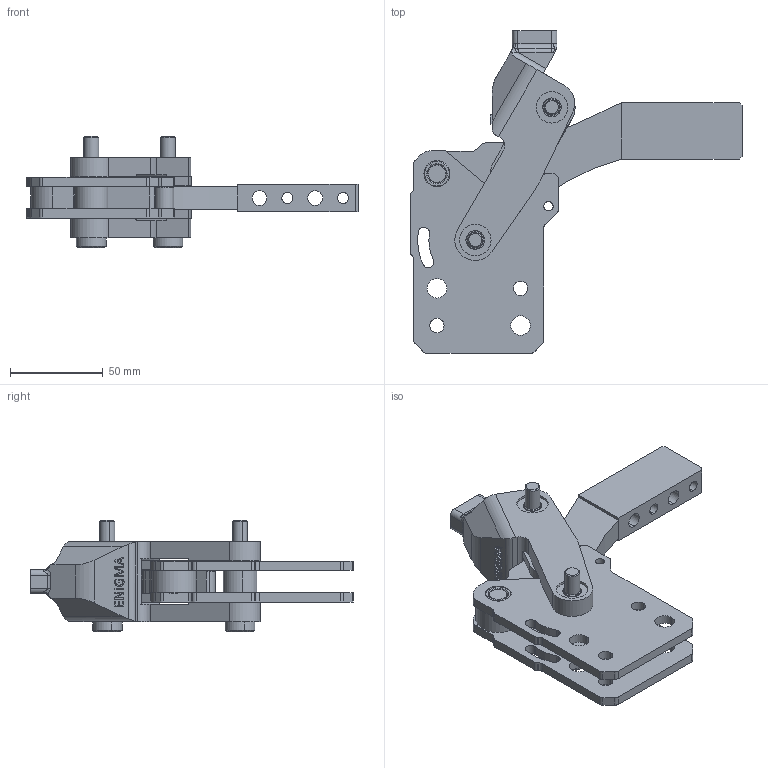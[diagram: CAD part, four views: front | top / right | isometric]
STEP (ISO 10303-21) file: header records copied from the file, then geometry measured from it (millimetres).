
FILE_DESCRIPTION (( 'STEP AP203' ), '1' );
FILE_NAME ('1545_D.STEP', '2022-12-06T13:27:18', ( '' ), ( '' ), 'SwSTEP 2.0', 'SolidWorks 2023', '' );
FILE_SCHEMA (( 'CONFIG_CONTROL_DESIGN' ));
Length unit declared in the file: millimetre
Products named in the file (11): 1505_MafsalGrubu_Kilitli_Varsayılan; AS_5_D_G_Varsayılan; 1545_BASKIKOLU_YARIŞKABİN_2; 1535_Burc_14x10x5_Varsayılan; 1535_Mafsal_5mm_Varsayılan; 1535_dovme mafsal_Varsayılan; 1535_cap5x12_on paralel burc_Varsayılan; G39x8x10x40_Varsayılan; 1545_D; 1535_Cap10x22 Tırtıllı Pim_Varsayılan; 1535_cap10x18_ara mesafe burcu_Varsayılan
Assembly tree (20 placements, depth 3):
  1545_D
    1505_MafsalGrubu_Kilitli_Varsayılan
      1535_dovme mafsal_Varsayılan
      1535_Mafsal_5mm_Varsayılan  x2
      1535_Burc_14x10x5_Varsayılan  x4
      G39x8x10x40_Varsayılan  x2
      1535_cap10x18_ara mesafe burcu_Varsayılan  x2
    1535_cap5x12_on paralel burc_Varsayılan
    1535_Cap10x22 Tırtıllı Pim_Varsayılan  x2
    1535_Burc_14x10x5_Varsayılan  x2
    1545_BASKIKOLU_YARIŞKABİN_2
    AS_5_D_G_Varsayılan  x2
Bounding box: 178.68 x 173.78 x 60 mm (x, y, z)
Volume: 234631.5 mm3; surface area: 91626.3 mm2
Topology: 19 solids, 19 shells, 1228 faces, 3143 edges, 1970 vertices
Faces by surface type: plane 756, cylinder 307, cone 92, bspline 69, torus 4
Entity records: 21621 total; most frequent: CARTESIAN_POINT 6095, ORIENTED_EDGE 3044, DIRECTION 2788, EDGE_CURVE 1522, VERTEX_POINT 982, AXIS2_PLACEMENT_3D 943, VECTOR 902, LINE 902
